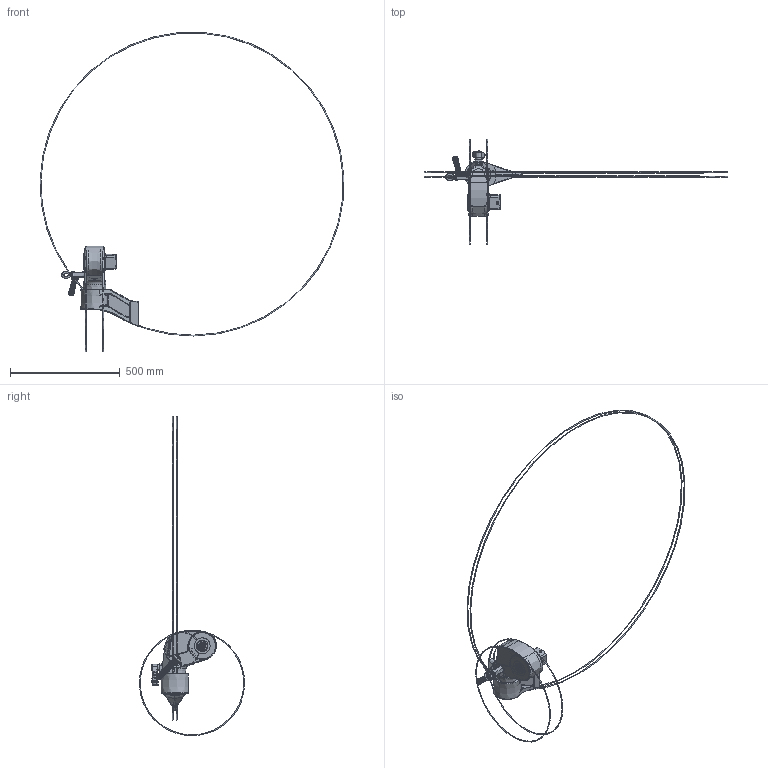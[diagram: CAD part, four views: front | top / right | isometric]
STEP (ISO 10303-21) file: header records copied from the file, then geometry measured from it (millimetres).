
FILE_DESCRIPTION((''),'2;1');
FILE_NAME('S25000X','2015-04-01T',('david.cox'),(''),'PRO/ENGINEER BY PARAMETRIC TECHNOLOGY CORPORATION, 2014200','PRO/ENGINEER BY PARAMETRIC TECHNOLOGY CORPORATION, 2014200','');
FILE_SCHEMA(('CONFIG_CONTROL_DESIGN'));
Products named in the file (1): S25000X
Bounding box: 1385.65 x 479.56 x 1456.33 mm (x, y, z)
Surface area: 491625.4 mm2 (no closed solid volume)
Topology: 0 solids, 0 shells, 693 faces, 5348 edges, 5280 vertices
Faces by surface type: bspline 586, torus 95, sphere 12
Entity records: 249230 total; most frequent: CARTESIAN_POINT 204036, DIRECTION 6800, TRIMMED_CURVE 5504, DEFINITIONAL_REPRESENTATION 5208, PCURVE 5208, COMPOSITE_CURVE_SEGMENT 5208, VECTOR 4422, LINE 4422
